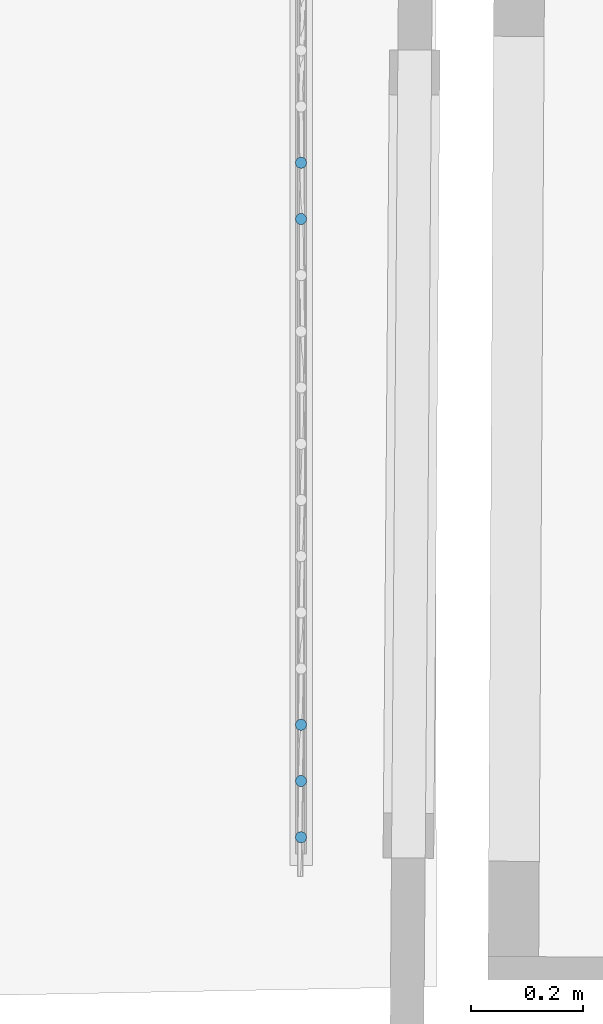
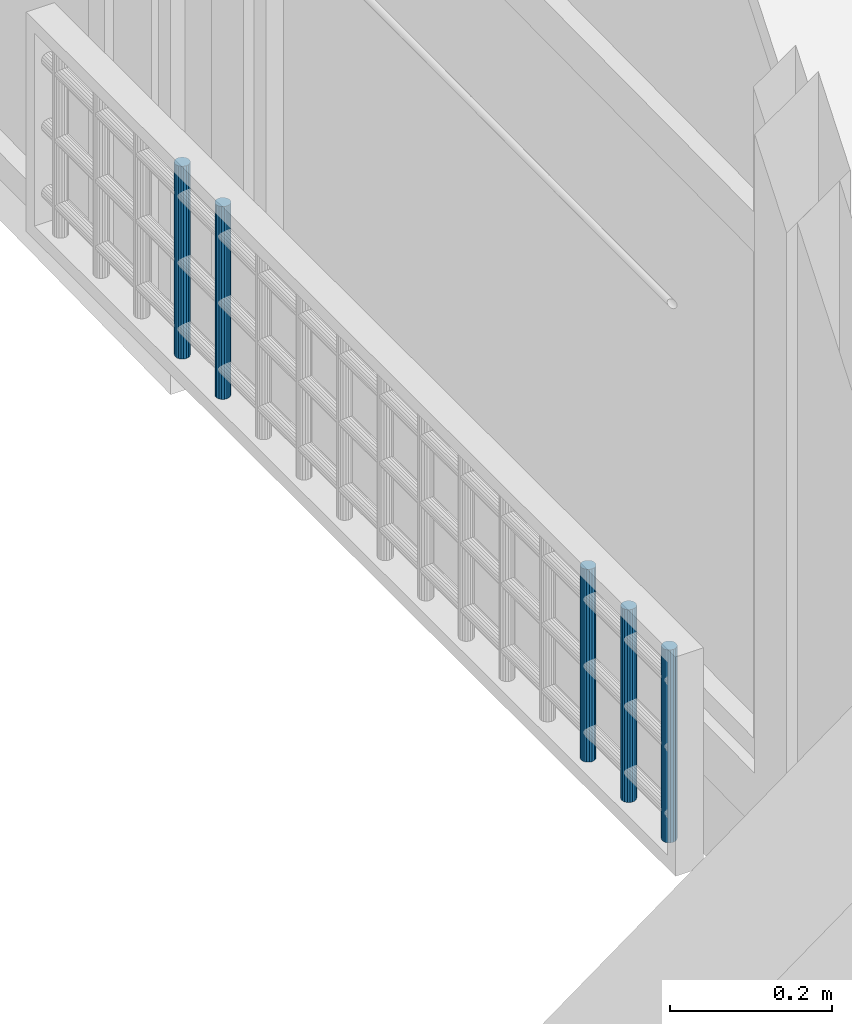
# One storey, part 48 of 133: 5 members, 1 element without a shape of its own.
"""IFC2X3 building model written with IfcOpenShell, lengths in centimetres."""

from ifc_helpers import new_model, entity, si_unit, converted_unit, direction, frame, origin, origin_with_axes, place, context, subcontext, project, spatial, faceted_brep, material, type_object, element, aggregate, save


model = new_model("IFC2X3")

# Units and contexts
model_context = context("Model", 3, precision=0.0001, world=origin(), true_north=direction((0.225632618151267, 0.974212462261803, 0.0)))
body_context = subcontext(model_context, "Body", "Model", "MODEL_VIEW")
ifc_project = project(units=[si_unit("LENGTHUNIT", "METRE", prefix="CENTI"), si_unit("AREAUNIT", "SQUARE_METRE", prefix="CENTI"), si_unit("VOLUMEUNIT", "CUBIC_METRE", prefix="CENTI"), converted_unit("PLANEANGLEUNIT", "DEGREE", entity("IfcRatioMeasure", 0.0174532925), si_unit("PLANEANGLEUNIT", "RADIAN"), dimensions=[0, 0, 0, 0, 0, 0, 0])], contexts=[model_context])

# Site, building, storey
site_placement = place(None, origin_with_axes())
site = spatial("IfcSite", under=ifc_project, at=site_placement, Name="Default Site", CompositionType="ELEMENT")
building_placement = place(site_placement, origin_with_axes())
building = spatial("IfcBuilding", under=site, at=building_placement, Name="Default Building", CompositionType="ELEMENT")
storey_placement = place(building_placement, frame((0.0, 0.0, -291.400371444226), z_axis=(0.0, 0.0, 1.0), x_axis=(1.0, 0.0, 0.0)))
storey = spatial("IfcBuildingStorey", under=building, at=storey_placement, Name="Rez-de-Jardin", CompositionType="ELEMENT", Elevation=-291.400371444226)

# Assembly, members
building_element_proxy_type = type_object("IfcBuildingElementProxyType", Name="Type Object", PredefinedType="NOTDEFINED")
assembly_placement = place(storey_placement, frame((1053.90827276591, -19.9208693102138, 18.0), z_axis=(0.0, 0.0, 1.0), x_axis=(-1.22124532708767e-15, -1.0, 0.0)))
assembly = element("IfcElementAssembly", 1, at=assembly_placement, inside=storey, type_object=building_element_proxy_type, Name="Panneau 73504", ObjectType="Precast panel", PredefinedType="USERDEFINED")
ifc_material = material(Name="Beige")
member_1_placement = place(assembly_placement, frame((35.9396934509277, 0.3420201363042, 31.0000002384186), z_axis=(0.0, 0.0, 1.0), x_axis=(0.500002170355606, -0.866024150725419, 0.0)))
member_1 = element("IfcMember", 2, at=member_1_placement, material=ifc_material, Name="4294966788", context=body_context, shape_type="Brep", body=[
    faceted_brep([(-1.02695629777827e-13, -2.77555756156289e-14, 4.44089209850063e-14), (-0.347296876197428, -3.33066907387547e-14, 4.44089209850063e-14), (-0.673649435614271, -0.118782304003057, 4.44089209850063e-14), (-0.939693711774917, -0.342018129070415, 4.44089209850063e-14), (-1.11334216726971, -0.642784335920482, 4.44089209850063e-14), (-1.17365112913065, -0.984805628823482, 4.44089209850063e-14), (-1.11334505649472, -1.32682669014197, 4.44089209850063e-14), (-0.939696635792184, -1.62759289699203, 4.44089209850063e-14), (-0.673653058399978, -1.85083187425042, 4.44089209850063e-14), (-0.347301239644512, -1.96961451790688, 4.44089209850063e-14), (-5.85356977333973e-06, -1.96961709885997, 4.44089209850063e-14), (0.326346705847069, -1.85083479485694, 4.44089209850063e-14), (0.592392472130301, -1.62759638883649, 4.44089209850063e-14), (0.766040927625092, -1.32683018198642, 4.44089209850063e-14), (0.826348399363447, -0.984811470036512, 4.44089209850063e-14), (0.766042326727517, -0.64279040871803, 4.44089209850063e-14), (0.592395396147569, -0.342021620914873, 4.44089209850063e-14), (0.326351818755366, -0.118782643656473, 4.44089209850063e-14), (0.326351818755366, -0.118782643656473, -29.000000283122), (0.592395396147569, -0.342021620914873, -29.000000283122), (0.766042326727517, -0.64279040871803, -29.000000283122), (0.826348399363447, -0.984811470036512, -29.000000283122), (0.766040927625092, -1.32683018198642, -29.000000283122), (0.592392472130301, -1.62759638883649, -29.000000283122), (0.326346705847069, -1.85083479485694, -29.000000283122), (-5.85356977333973e-06, -1.96961709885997, -29.000000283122), (-0.347301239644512, -1.96961451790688, -29.000000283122), (-0.673653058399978, -1.85083187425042, -29.000000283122), (-0.939696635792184, -1.62759289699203, -29.000000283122), (-1.11334505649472, -1.32682669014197, -29.000000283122), (-1.17365112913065, -0.984805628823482, -29.000000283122), (-1.11334216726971, -0.642784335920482, -29.000000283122), (-0.939693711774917, -0.342018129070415, -29.000000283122), (-0.673649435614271, -0.118782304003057, -29.000000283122), (-0.347296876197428, -3.33066907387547e-14, -29.000000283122), (-1.02695629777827e-13, -2.77555756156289e-14, -29.000000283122), (0.59239577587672, -0.342021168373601, 4.44089209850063e-14), (0.59239577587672, -0.342021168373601, -29.000000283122), (0.76604307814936, -0.642789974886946, 4.44089209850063e-14), (0.76604307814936, -0.642789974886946, -29.000000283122), (0.826348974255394, -0.984811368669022, 4.44089209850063e-14), (0.826348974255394, -0.984811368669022, -29.000000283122), (0.766040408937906, -1.32683009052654, 4.44089209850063e-14), (0.766040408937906, -1.32683009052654, -29.000000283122), (0.326346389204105, -1.85083441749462, 4.44089209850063e-14), (0.326346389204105, -1.85083441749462, -29.000000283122), (-6.05322617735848e-06, -1.96961655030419, 4.44089209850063e-14), (-6.05322617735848e-06, -1.96961655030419, -29.000000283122), (-0.347301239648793, -1.96961623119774, 4.44089209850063e-14), (-0.347301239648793, -1.96961623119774, -29.000000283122), (-0.673652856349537, -1.85083131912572, 4.44089209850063e-14), (-0.673652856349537, -1.85083131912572, -29.000000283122), (-0.939697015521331, -1.6275933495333, 4.44089209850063e-14), (-0.939697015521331, -1.6275933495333, -29.000000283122), (-1.11334357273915, -1.32682583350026, 4.44089209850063e-14), (-1.11334357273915, -1.32682583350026, -29.000000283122), (-1.1736517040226, -0.984805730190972, 4.44089209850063e-14), (-1.1736517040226, -0.984805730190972, -29.000000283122), (-1.11334265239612, -0.642784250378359, 4.44089209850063e-14), (-1.11334265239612, -0.642784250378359, -29.000000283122), (-0.939693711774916, -0.342018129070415, 4.44089209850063e-14), (-0.939693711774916, -0.342018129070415, -29.000000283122), (-0.673649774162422, -0.118781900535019, 4.44089209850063e-14), (-0.673649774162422, -0.118781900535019, -29.000000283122), (-0.347296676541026, -5.48555806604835e-07, 4.44089209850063e-14), (-0.347296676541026, -5.48555806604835e-07, -29.000000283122), (-2.27042087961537e-12, -8.67665984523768e-07, 4.44089209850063e-14), (-2.27042087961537e-12, -8.67665984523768e-07, -29.000000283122), (0.326351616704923, -0.118783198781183, 4.44089209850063e-14), (0.326351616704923, -0.118783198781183, -29.000000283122)], [[[0, 1, 2, 3, 4, 5, 6, 7, 8, 9, 10, 11, 12, 13, 14, 15, 16, 17]], [[18, 19, 20, 21, 22, 23, 24, 25, 26, 27, 28, 29, 30, 31, 32, 33, 34, 35]], [[17, 36, 37, 18]], [[16, 38, 39, 19]], [[15, 40, 41, 20]], [[14, 42, 43, 21]], [[13, 12, 23, 22]], [[12, 44, 45, 23]], [[11, 46, 47, 24]], [[10, 48, 49, 25]], [[9, 50, 51, 26]], [[8, 52, 53, 27]], [[7, 54, 55, 28]], [[6, 56, 57, 29]], [[5, 58, 59, 30]], [[4, 60, 61, 31]], [[3, 62, 63, 32]], [[2, 64, 65, 33]], [[1, 66, 67, 34]], [[0, 68, 69, 35]]]),
])
member_2_placement = place(assembly_placement, frame((45.9396928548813, 0.3420201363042, 31.0000002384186), z_axis=(0.0, 0.0, 1.0), x_axis=(0.500002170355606, -0.866024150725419, 0.0)))
member_2 = element("IfcMember", 3, at=member_2_placement, material=ifc_material, Name="4294966787", context=body_context, shape_type="Brep", body=[
    faceted_brep([(-2.22044604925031e-14, -7.21644966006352e-14, 4.44089209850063e-14), (-0.347296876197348, -7.7715611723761e-14, 4.44089209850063e-14), (-0.673647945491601, -0.118779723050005, 4.44089209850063e-14), (-0.939693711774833, -0.342018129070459, 4.44089209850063e-14), (-1.11334216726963, -0.642784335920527, 4.44089209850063e-14), (-1.17365112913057, -0.984805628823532, 4.44089209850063e-14), (-1.11334356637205, -1.32682410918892, 4.44089209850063e-14), (-0.9396966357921, -1.62759289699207, 4.44089209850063e-14), (-0.673653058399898, -1.85083187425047, 4.44089209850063e-14), (-0.347301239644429, -1.96961451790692, 4.44089209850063e-14), (-4.36344710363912e-06, -1.96961451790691, 4.44089209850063e-14), (0.32634670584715, -1.85083479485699, 4.44089209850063e-14), (0.592392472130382, -1.62759638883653, 4.44089209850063e-14), (0.766040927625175, -1.32683018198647, 4.44089209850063e-14), (0.826349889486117, -0.984808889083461, 4.44089209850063e-14), (0.766042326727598, -0.642790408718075, 4.44089209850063e-14), (0.592395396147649, -0.342021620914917, 4.44089209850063e-14), (0.326351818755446, -0.118782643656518, 4.44089209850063e-14), (0.326351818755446, -0.118782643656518, -29.000000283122), (0.592395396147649, -0.342021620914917, -29.000000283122), (0.766042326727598, -0.642790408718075, -29.000000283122), (0.826349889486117, -0.984808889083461, -29.000000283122), (0.766040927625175, -1.32683018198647, -29.000000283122), (0.592392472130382, -1.62759638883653, -29.000000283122), (0.32634670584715, -1.85083479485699, -29.000000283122), (-4.36344710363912e-06, -1.96961451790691, -29.000000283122), (-0.347301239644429, -1.96961451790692, -29.000000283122), (-0.673653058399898, -1.85083187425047, -29.000000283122), (-0.9396966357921, -1.62759289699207, -29.000000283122), (-1.11334356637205, -1.32682410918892, -29.000000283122), (-1.17365112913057, -0.984805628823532, -29.000000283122), (-1.11334216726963, -0.642784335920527, -29.000000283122), (-0.939693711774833, -0.342018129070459, -29.000000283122), (-0.673647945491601, -0.118779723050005, -29.000000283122), (-0.347296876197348, -7.7715611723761e-14, -29.000000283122), (-2.22044604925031e-14, -7.21644966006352e-14, -29.000000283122), (0.5923957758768, -0.342021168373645, 4.44089209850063e-14), (0.5923957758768, -0.342021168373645, -29.000000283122), (0.76604307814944, -0.64278997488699, 4.44089209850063e-14), (0.76604307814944, -0.64278997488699, -29.000000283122), (0.826348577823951, -0.984809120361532, 4.44089209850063e-14), (0.826348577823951, -0.984809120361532, -29.000000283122), (0.766041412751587, -1.32683026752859, 4.44089209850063e-14), (0.766041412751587, -1.32683026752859, -29.000000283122), (0.592392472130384, -1.62759638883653, 4.44089209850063e-14), (0.592392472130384, -1.62759638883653, -29.000000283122), (0.326346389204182, -1.85083441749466, 4.44089209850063e-14), (0.326346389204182, -1.85083441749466, -29.000000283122), (-3.90791497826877e-06, -1.96961576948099, 4.44089209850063e-14), (-3.90791497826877e-06, -1.96961576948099, -29.000000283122), (-0.347301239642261, -1.96961365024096, 4.44089209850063e-14), (-0.347301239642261, -1.96961365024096, -29.000000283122), (-0.673652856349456, -1.85083131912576, 4.44089209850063e-14), (-0.673652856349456, -1.85083131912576, -29.000000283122), (-0.939697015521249, -1.62759334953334, 4.44089209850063e-14), (-0.939697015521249, -1.62759334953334, -29.000000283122), (-1.11334431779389, -1.32682454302, 4.44089209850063e-14), (-1.11334431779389, -1.32682454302, -29.000000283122), (-1.1736498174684, -0.984805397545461, 4.44089209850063e-14), (-1.1736498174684, -0.984805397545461, -29.000000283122), (-1.11334265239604, -0.642784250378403, 4.44089209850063e-14), (-1.11334265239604, -0.642784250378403, -29.000000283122), (-0.939693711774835, -0.342018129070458, 4.44089209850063e-14), (-0.939693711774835, -0.342018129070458, -29.000000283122), (-0.673647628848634, -0.118780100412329, 4.44089209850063e-14), (-0.673647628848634, -0.118780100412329, -29.000000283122), (-0.347297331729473, 1.25157399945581e-06, 4.44089209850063e-14), (-0.347297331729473, 1.25157399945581e-06, -29.000000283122), (-2.18992971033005e-12, -8.67666028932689e-07, 4.44089209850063e-14), (-2.18992971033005e-12, -8.67666028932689e-07, -29.000000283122), (0.326351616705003, -0.118783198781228, 4.44089209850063e-14), (0.326351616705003, -0.118783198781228, -29.000000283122)], [[[0, 1, 2, 3, 4, 5, 6, 7, 8, 9, 10, 11, 12, 13, 14, 15, 16, 17]], [[18, 19, 20, 21, 22, 23, 24, 25, 26, 27, 28, 29, 30, 31, 32, 33, 34, 35]], [[17, 36, 37, 18]], [[16, 38, 39, 19]], [[15, 40, 41, 20]], [[14, 42, 43, 21]], [[13, 44, 45, 22]], [[12, 46, 47, 23]], [[11, 48, 49, 24]], [[10, 50, 51, 25]], [[9, 52, 53, 26]], [[8, 54, 55, 27]], [[7, 56, 57, 28]], [[6, 58, 59, 29]], [[5, 60, 61, 30]], [[4, 62, 63, 31]], [[3, 64, 65, 32]], [[2, 66, 67, 33]], [[1, 68, 69, 34]], [[0, 70, 71, 35]]]),
])
member_3_placement = place(assembly_placement, frame((135.939693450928, 0.3420201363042, 31.0000002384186), z_axis=(0.0, 0.0, 1.0), x_axis=(0.500008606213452, -0.866020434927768, 0.0)))
member_3 = element("IfcMember", 4, at=member_3_placement, material=ifc_material, Name="4294966778", context=body_context, shape_type="Brep", body=[
    faceted_brep([(1.11022302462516e-14, -4.44089209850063e-14, 3.88578058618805e-14), (-0.347298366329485, -4.44089209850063e-14, 3.88578058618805e-14), (-0.67364882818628, -0.118774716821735, 3.88578058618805e-14), (-0.939699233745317, -0.342016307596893, 3.88578058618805e-14), (-1.11334843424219, -0.64277864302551, 3.88578058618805e-14), (-1.17365695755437, -0.98479432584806, 3.88578058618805e-14), (-1.11335640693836, -1.32682099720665, 3.88578058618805e-14), (-0.939707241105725, -1.62758333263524, 3.88578058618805e-14), (-0.673665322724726, -1.85082428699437, 3.88578058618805e-14), (-0.347314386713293, -1.96960935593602, 3.88578058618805e-14), (-2.19809508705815e-05, -1.9696196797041, 3.88578058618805e-14), (0.326334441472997, -1.85083463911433, 3.88578058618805e-14), (0.592378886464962, -1.62760337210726, 3.88578058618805e-14), (0.766028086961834, -1.32684103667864, 3.88578058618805e-14), (0.826342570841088, -0.984815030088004, 3.88578058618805e-14), (0.766036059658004, -0.642798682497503, 3.88578058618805e-14), (0.592392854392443, -0.342026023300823, 3.88578058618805e-14), (0.326350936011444, -0.118785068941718, 3.88578058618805e-14), (0.326350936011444, -0.118785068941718, -29.000000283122), (0.592392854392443, -0.342026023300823, -29.000000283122), (0.766036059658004, -0.642798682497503, -29.000000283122), (0.826342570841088, -0.984815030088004, -29.000000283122), (0.766028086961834, -1.32684103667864, -29.000000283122), (0.592378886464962, -1.62760337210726, -29.000000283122), (0.326334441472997, -1.85083463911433, -29.000000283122), (-2.19809508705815e-05, -1.9696196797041, -29.000000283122), (-0.347314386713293, -1.96960935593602, -29.000000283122), (-0.673665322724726, -1.85082428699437, -29.000000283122), (-0.939707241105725, -1.62758333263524, -29.000000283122), (-1.11335640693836, -1.32682099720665, -29.000000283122), (-1.17365695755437, -0.98479432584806, -29.000000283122), (-1.11334843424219, -0.64277864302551, -29.000000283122), (-0.939699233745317, -0.342016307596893, -29.000000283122), (-0.67364882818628, -0.118774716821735, -29.000000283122), (-0.347298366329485, -4.44089209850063e-14, -29.000000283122), (1.11022302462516e-14, -4.44089209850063e-14, -29.000000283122), (0.592393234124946, -0.342025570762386, 3.88578058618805e-14), (0.592393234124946, -0.342025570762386, -29.000000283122), (0.766039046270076, -0.642796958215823, 3.88578058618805e-14), (0.766039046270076, -0.642796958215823, -29.000000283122), (0.82633937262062, -0.984815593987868, 3.88578058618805e-14), (0.82633937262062, -0.984815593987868, -29.000000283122), (0.766030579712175, -1.32684147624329, 3.88578058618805e-14), (0.766030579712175, -1.32684147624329, -29.000000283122), (0.592378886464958, -1.62760337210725, 3.88578058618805e-14), (0.592378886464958, -1.62760337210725, -29.000000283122), (0.326335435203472, -1.85083582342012, 3.88578058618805e-14), (0.326335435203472, -1.85083582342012, -29.000000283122), (-2.34909534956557e-05, -1.96961553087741, 3.88578058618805e-14), (-2.34909534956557e-05, -1.96961553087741, -29.000000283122), (-0.347314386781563, -1.96961623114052, 3.88578058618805e-14), (-0.347314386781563, -1.96961623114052, -29.000000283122), (-0.673665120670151, -1.85082373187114, 3.88578058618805e-14), (-0.673665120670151, -1.85082373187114, -29.000000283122), (-0.939707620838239, -1.62758378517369, 3.88578058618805e-14), (-0.939707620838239, -1.62758378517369, -29.000000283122), (-1.11335045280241, -1.32681755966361, 3.88578058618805e-14), (-1.11335045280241, -1.32681755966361, -29.000000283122), (-1.17366130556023, -0.984795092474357, 3.88578058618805e-14), (-1.17366130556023, -0.984795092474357, -29.000000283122), (-1.1133469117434, -0.642778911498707, 3.88578058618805e-14), (-1.1133469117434, -0.642778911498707, -29.000000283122), (-0.939699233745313, -0.342016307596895, 3.88578058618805e-14), (-0.939699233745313, -0.342016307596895, -29.000000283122), (-0.673647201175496, -0.11877665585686, 3.88578058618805e-14), (-0.673647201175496, -0.11877665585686, -29.000000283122), (-0.347299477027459, 3.05171213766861e-06, 3.88578058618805e-14), (-0.347299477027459, 3.05171213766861e-06, -29.000000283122), (-3.42332252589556e-11, -3.44862281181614e-06, 3.88578058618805e-14), (-3.42332252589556e-11, -3.44862281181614e-06, -29.000000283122), (0.326350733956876, -0.118785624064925, 3.88578058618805e-14), (0.326350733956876, -0.118785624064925, -29.000000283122)], [[[0, 1, 2, 3, 4, 5, 6, 7, 8, 9, 10, 11, 12, 13, 14, 15, 16, 17]], [[18, 19, 20, 21, 22, 23, 24, 25, 26, 27, 28, 29, 30, 31, 32, 33, 34, 35]], [[17, 36, 37, 18]], [[16, 38, 39, 19]], [[15, 40, 41, 20]], [[14, 42, 43, 21]], [[13, 44, 45, 22]], [[12, 46, 47, 23]], [[11, 48, 49, 24]], [[10, 50, 51, 25]], [[9, 52, 53, 26]], [[8, 54, 55, 27]], [[7, 56, 57, 28]], [[6, 58, 59, 29]], [[5, 60, 61, 30]], [[4, 62, 63, 31]], [[3, 64, 65, 32]], [[2, 66, 67, 33]], [[1, 68, 69, 34]], [[0, 70, 71, 35]]]),
])
member_4_placement = place(assembly_placement, frame((145.939695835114, 0.3420201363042, 31.0000002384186), z_axis=(0.0, 0.0, 1.0), x_axis=(0.500008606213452, -0.866020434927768, 0.0)))
member_4 = element("IfcMember", 5, at=member_4_placement, material=ifc_material, Name="4294966777", context=body_context, shape_type="Brep", body=[
    faceted_brep([(1.4432899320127e-13, -2.22044604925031e-14, 3.88578058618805e-14), (-0.347298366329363, -2.22044604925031e-14, 3.88578058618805e-14), (-0.673648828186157, -0.118774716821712, 3.88578058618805e-14), (-0.939699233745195, -0.342016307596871, 3.88578058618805e-14), (-1.11334843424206, -0.642778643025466, 3.88578058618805e-14), (-1.17365695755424, -0.984794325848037, 3.88578058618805e-14), (-1.11335640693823, -1.3268209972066, 3.88578058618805e-14), (-0.939713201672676, -1.62759365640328, 3.88578058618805e-14), (-0.673665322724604, -1.85082428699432, 3.88578058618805e-14), (-0.347320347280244, -1.96961967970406, 3.88578058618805e-14), (-2.19809507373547e-05, -1.96961967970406, 3.88578058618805e-14), (0.326334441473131, -1.85083463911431, 3.88578058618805e-14), (0.592378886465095, -1.62760337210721, 3.88578058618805e-14), (0.766028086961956, -1.32684103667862, 3.88578058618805e-14), (0.82634257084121, -0.984815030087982, 3.88578058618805e-14), (0.766036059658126, -0.642798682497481, 3.88578058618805e-14), (0.592392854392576, -0.342026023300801, 3.88578058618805e-14), (0.326350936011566, -0.118785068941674, 3.88578058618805e-14), (0.326350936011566, -0.118785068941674, -29.000000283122), (0.592392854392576, -0.342026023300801, -29.000000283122), (0.766036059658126, -0.642798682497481, -29.000000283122), (0.82634257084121, -0.984815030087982, -29.000000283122), (0.766028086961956, -1.32684103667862, -29.000000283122), (0.592378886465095, -1.62760337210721, -29.000000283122), (0.326334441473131, -1.85083463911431, -29.000000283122), (-2.19809507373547e-05, -1.96961967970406, -29.000000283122), (-0.347320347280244, -1.96961967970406, -29.000000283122), (-0.673665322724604, -1.85082428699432, -29.000000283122), (-0.939713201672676, -1.62759365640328, -29.000000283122), (-1.11335640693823, -1.3268209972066, -29.000000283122), (-1.17365695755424, -0.984794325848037, -29.000000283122), (-1.11334843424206, -0.642778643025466, -29.000000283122), (-0.939699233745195, -0.342016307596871, -29.000000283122), (-0.673648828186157, -0.118774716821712, -29.000000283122), (-0.347298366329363, -2.22044604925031e-14, -29.000000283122), (1.4432899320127e-13, -2.22044604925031e-14, -29.000000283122), (0.592393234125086, -0.342025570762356, 3.88578058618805e-14), (0.592393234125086, -0.342025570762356, -29.000000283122), (0.766039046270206, -0.642796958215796, 3.88578058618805e-14), (0.766039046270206, -0.642796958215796, -29.000000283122), (0.826339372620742, -0.984815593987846, 3.88578058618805e-14), (0.826339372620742, -0.984815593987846, -29.000000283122), (0.766030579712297, -1.32684147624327, 3.88578058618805e-14), (0.766030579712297, -1.32684147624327, -29.000000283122), (0.592378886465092, -1.62760337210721, 3.88578058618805e-14), (0.592378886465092, -1.62760337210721, -29.000000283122), (0.326335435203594, -1.85083582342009, 3.88578058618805e-14), (0.326335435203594, -1.85083582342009, -29.000000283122), (-2.34909533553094e-05, -1.96961553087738, 3.88578058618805e-14), (-2.34909533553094e-05, -1.96961553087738, -29.000000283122), (-0.347320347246, -1.96961623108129, 3.88578058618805e-14), (-0.347320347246, -1.96961623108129, -29.000000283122), (-0.673669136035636, -1.8508347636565, 3.88578058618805e-14), (-0.673669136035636, -1.8508347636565, -29.000000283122), (-0.939706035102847, -1.62758511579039, 3.88578058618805e-14), (-0.939706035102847, -1.62758511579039, -29.000000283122), (-1.11335939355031, -1.32682272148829, 3.88578058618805e-14), (-1.11335939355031, -1.32682272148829, -29.000000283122), (-1.1736613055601, -0.984795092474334, 3.88578058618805e-14), (-1.1736613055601, -0.984795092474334, -29.000000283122), (-1.11334691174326, -0.642778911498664, 3.88578058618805e-14), (-1.11334691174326, -0.642778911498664, -29.000000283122), (-0.939699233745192, -0.342016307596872, 3.88578058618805e-14), (-0.939699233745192, -0.342016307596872, -29.000000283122), (-0.673647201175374, -0.118776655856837, 3.88578058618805e-14), (-0.673647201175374, -0.118776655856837, -29.000000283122), (-0.347299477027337, 3.05171215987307e-06, 3.88578058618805e-14), (-0.347299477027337, 3.05171215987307e-06, -29.000000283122), (-3.40999984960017e-11, -3.44862278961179e-06, 3.88578058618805e-14), (-3.40999984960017e-11, -3.44862278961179e-06, -29.000000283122), (0.326350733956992, -0.118785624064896, 3.88578058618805e-14), (0.326350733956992, -0.118785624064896, -29.000000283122)], [[[0, 1, 2, 3, 4, 5, 6, 7, 8, 9, 10, 11, 12, 13, 14, 15, 16, 17]], [[18, 19, 20, 21, 22, 23, 24, 25, 26, 27, 28, 29, 30, 31, 32, 33, 34, 35]], [[17, 36, 37, 18]], [[16, 38, 39, 19]], [[15, 40, 41, 20]], [[14, 42, 43, 21]], [[13, 44, 45, 22]], [[12, 46, 47, 23]], [[11, 48, 49, 24]], [[10, 50, 51, 25]], [[9, 52, 53, 26]], [[8, 54, 55, 27]], [[7, 56, 57, 28]], [[6, 58, 59, 29]], [[5, 60, 61, 30]], [[4, 62, 63, 31]], [[3, 64, 65, 32]], [[2, 66, 67, 33]], [[1, 68, 69, 34]], [[0, 70, 71, 35]]]),
])
member_5_placement = place(assembly_placement, frame((155.939698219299, 0.3420201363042, 31.0000002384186), z_axis=(0.0, 0.0, 1.0), x_axis=(0.500008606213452, -0.866020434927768, 0.0)))
member_5 = element("IfcMember", 6, at=member_5_placement, material=ifc_material, Name="4294966776", context=body_context, shape_type="Brep", body=[
    faceted_brep([(8.88178419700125e-14, -8.88178419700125e-14, 3.88578058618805e-14), (-0.347298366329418, -8.88178419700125e-14, 3.88578058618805e-14), (-0.673654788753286, -0.118785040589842, 3.88578058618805e-14), (-0.93969923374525, -0.342016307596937, 3.88578058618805e-14), (-1.11334843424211, -0.642778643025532, 3.88578058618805e-14), (-1.17366291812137, -0.984804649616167, 3.88578058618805e-14), (-1.11335640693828, -1.32682099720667, 3.88578058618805e-14), (-0.939713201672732, -1.62759365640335, 3.88578058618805e-14), (-0.673671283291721, -1.85083461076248, 3.88578058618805e-14), (-0.3473203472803, -1.96961967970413, 3.88578058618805e-14), (-2.19809507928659e-05, -1.96961967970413, 3.88578058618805e-14), (0.326328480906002, -1.85084496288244, 3.88578058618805e-14), (0.592378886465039, -1.62760337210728, 3.88578058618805e-14), (0.766028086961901, -1.32684103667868, 3.88578058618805e-14), (0.826336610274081, -0.984825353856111, 3.88578058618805e-14), (0.766036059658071, -0.642798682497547, 3.88578058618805e-14), (0.592392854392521, -0.342026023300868, 3.88578058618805e-14), (0.326344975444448, -0.118795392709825, 3.88578058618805e-14), (0.326344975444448, -0.118795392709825, -29.000000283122), (0.592392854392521, -0.342026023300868, -29.000000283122), (0.766036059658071, -0.642798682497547, -29.000000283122), (0.826336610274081, -0.984825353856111, -29.000000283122), (0.766028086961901, -1.32684103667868, -29.000000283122), (0.592378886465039, -1.62760337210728, -29.000000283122), (0.326328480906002, -1.85084496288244, -29.000000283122), (-2.19809507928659e-05, -1.96961967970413, -29.000000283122), (-0.3473203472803, -1.96961967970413, -29.000000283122), (-0.673671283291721, -1.85083461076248, -29.000000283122), (-0.939713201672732, -1.62759365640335, -29.000000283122), (-1.11335640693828, -1.32682099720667, -29.000000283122), (-1.17366291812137, -0.984804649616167, -29.000000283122), (-1.11334843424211, -0.642778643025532, -29.000000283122), (-0.93969923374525, -0.342016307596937, -29.000000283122), (-0.673654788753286, -0.118785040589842, -29.000000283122), (-0.347298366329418, -8.88178419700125e-14, -29.000000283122), (8.88178419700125e-14, -8.88178419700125e-14, -29.000000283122), (0.592385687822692, -0.342034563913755, 3.88578058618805e-14), (0.592385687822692, -0.342034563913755, -29.000000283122), (0.766039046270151, -0.642796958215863, 3.88578058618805e-14), (0.766039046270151, -0.642796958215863, -29.000000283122), (0.826340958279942, -0.984824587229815, 3.88578058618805e-14), (0.826340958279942, -0.984824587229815, -29.000000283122), (0.766026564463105, -1.32684076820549, 3.88578058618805e-14), (0.766026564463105, -1.32684076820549, -29.000000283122), (0.592378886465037, -1.62760337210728, 3.88578058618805e-14), (0.592378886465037, -1.62760337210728, -29.000000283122), (0.326326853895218, -1.85084302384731, 3.88578058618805e-14), (0.326326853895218, -1.85084302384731, -29.000000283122), (-2.08702528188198e-05, -1.96962273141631, 3.88578058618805e-14), (-2.08702528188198e-05, -1.96962273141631, -29.000000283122), (-0.347320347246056, -1.96961623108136, 3.88578058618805e-14), (-0.347320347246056, -1.96961623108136, -29.000000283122), (-0.673671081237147, -1.85083405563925, 3.88578058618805e-14), (-0.673671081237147, -1.85083405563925, -29.000000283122), (-0.939713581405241, -1.62759410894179, 3.88578058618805e-14), (-0.939713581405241, -1.62759410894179, -29.000000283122), (-1.11335939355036, -1.32682272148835, 3.88578058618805e-14), (-1.11335939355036, -1.32682272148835, -29.000000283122), (-1.1736597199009, -0.984804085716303, 3.88578058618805e-14), (-1.1736597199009, -0.984804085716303, -29.000000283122), (-1.11335092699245, -0.642778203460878, 3.88578058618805e-14), (-1.11335092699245, -0.642778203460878, -29.000000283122), (-0.939699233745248, -0.342016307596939, 3.88578058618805e-14), (-0.939699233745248, -0.342016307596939, -29.000000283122), (-0.67365578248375, -0.118783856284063, 3.88578058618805e-14), (-0.67365578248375, -0.118783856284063, -29.000000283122), (-0.3472968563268, -4.1488267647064e-06, 3.88578058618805e-14), (-0.3472968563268, -4.1488267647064e-06, -29.000000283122), (-3.4155509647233e-11, -3.44862285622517e-06, 3.88578058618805e-14), (-3.4155509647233e-11, -3.44862285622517e-06, -29.000000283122), (0.326348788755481, -0.118784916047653, 3.88578058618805e-14), (0.326348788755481, -0.118784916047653, -29.000000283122)], [[[0, 1, 2, 3, 4, 5, 6, 7, 8, 9, 10, 11, 12, 13, 14, 15, 16, 17]], [[18, 19, 20, 21, 22, 23, 24, 25, 26, 27, 28, 29, 30, 31, 32, 33, 34, 35]], [[17, 36, 37, 18]], [[16, 38, 39, 19]], [[15, 40, 41, 20]], [[14, 42, 43, 21]], [[13, 44, 45, 22]], [[12, 46, 47, 23]], [[11, 48, 49, 24]], [[10, 50, 51, 25]], [[9, 52, 53, 26]], [[8, 54, 55, 27]], [[7, 56, 57, 28]], [[6, 58, 59, 29]], [[5, 60, 61, 30]], [[4, 62, 63, 31]], [[3, 64, 65, 32]], [[2, 66, 67, 33]], [[1, 68, 69, 34]], [[0, 70, 71, 35]]]),
])
aggregate(assembly, [member_1, member_2, member_3, member_4, member_5])

save(model, "model.ifc")
